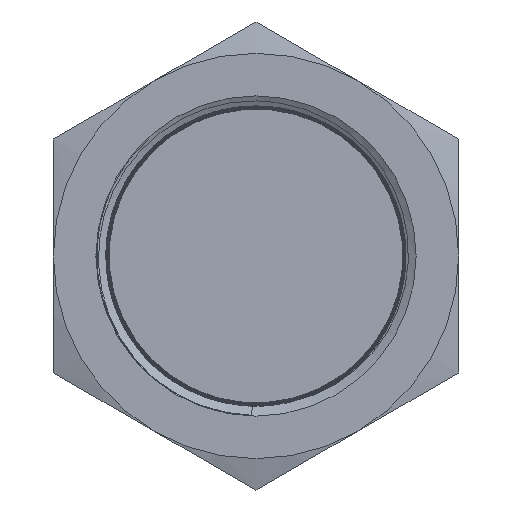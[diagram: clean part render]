
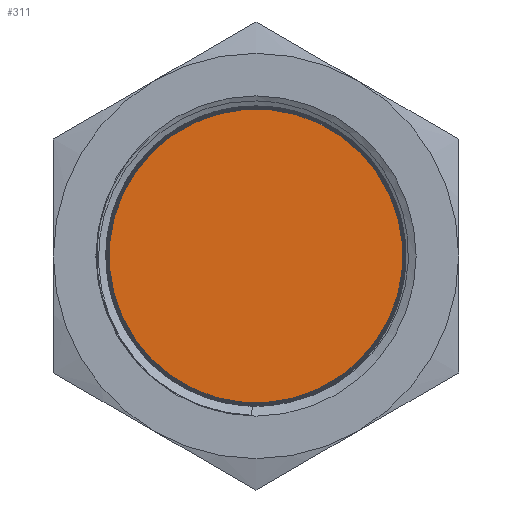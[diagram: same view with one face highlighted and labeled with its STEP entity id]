
A CAD part, left-side view. The second image highlights one B-rep face of the part: STEP entity #311.
In plain terms, the highlighted planar face has unit normal (-1, 0, 0).
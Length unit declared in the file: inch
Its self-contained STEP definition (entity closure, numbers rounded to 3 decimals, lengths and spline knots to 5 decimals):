
#311 = ADVANCED_FACE( '', ( #824 ), #825, .T. );
#824 = FACE_OUTER_BOUND( '', #2127, .T. );
#825 = PLANE( '', #2128 );
#2127 = EDGE_LOOP( '', ( #7990 ) );
#2128 = AXIS2_PLACEMENT_3D( '', #7991, #7992, #7993 );
#7990 = ORIENTED_EDGE( '', *, *, #10129, .T. );
#7991 = CARTESIAN_POINT( '', ( 0.784, 0., 0. ) );
#7992 = DIRECTION( '', ( -1., 0., 0. ) );
#7993 = DIRECTION( '', ( 0., 0., 1. ) );
#10129 = EDGE_CURVE( '', #10810, #10810, #11148, .T. );
#10810 = VERTEX_POINT( '', #12165 );
#11148 = CIRCLE( '', #13520, 1.08755 );
#12165 = CARTESIAN_POINT( '', ( 0.784, -0.1067, 1.0823 ) );
#13520 = AXIS2_PLACEMENT_3D( '', #17034, #17035, #17036 );
#17034 = CARTESIAN_POINT( '', ( 0.784, 0., 0. ) );
#17035 = DIRECTION( '', ( -1., 0., 0. ) );
#17036 = DIRECTION( '', ( 0., 0., 1. ) );
